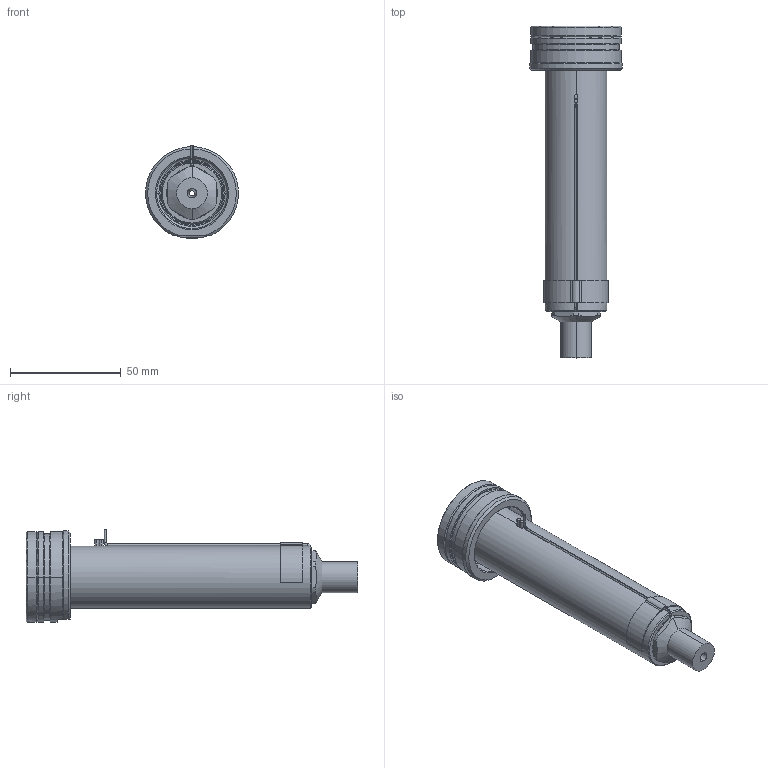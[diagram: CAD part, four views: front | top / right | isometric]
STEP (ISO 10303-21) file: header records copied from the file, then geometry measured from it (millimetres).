
FILE_DESCRIPTION((''),'2;1');
FILE_NAME('EO10_VG-FBE_WR_120_SW','2024-02-19T14:02:05',('sundharh'),(''),'CREO PARAMETRIC BY PTC INC, 2023154','CREO PARAMETRIC BY PTC INC, 2023154','');
FILE_SCHEMA(('CONFIG_CONTROL_DESIGN'));
Length unit declared in the file: millimetre
Products named in the file (1): EO10_VG-FBE_WR_120_SW
Bounding box: 41.85 x 150 x 42.02 mm (x, y, z)
Volume: 84506.2 mm3; surface area: 24141.2 mm2
Topology: 1 solids, 1 shells, 194 faces, 474 edges, 288 vertices
Faces by surface type: cylinder 71, plane 46, cone 39, torus 23, bspline 13, sphere 2
Entity records: 6609 total; most frequent: CARTESIAN_POINT 1957, DIRECTION 1037, ORIENTED_EDGE 940, EDGE_CURVE 470, AXIS2_PLACEMENT_3D 434, VERTEX_POINT 288, CIRCLE 253, EDGE_LOOP 210
